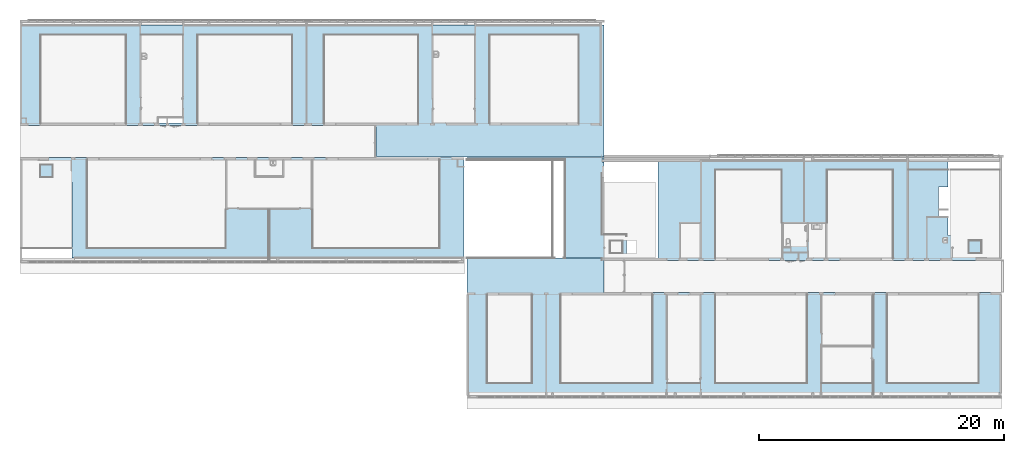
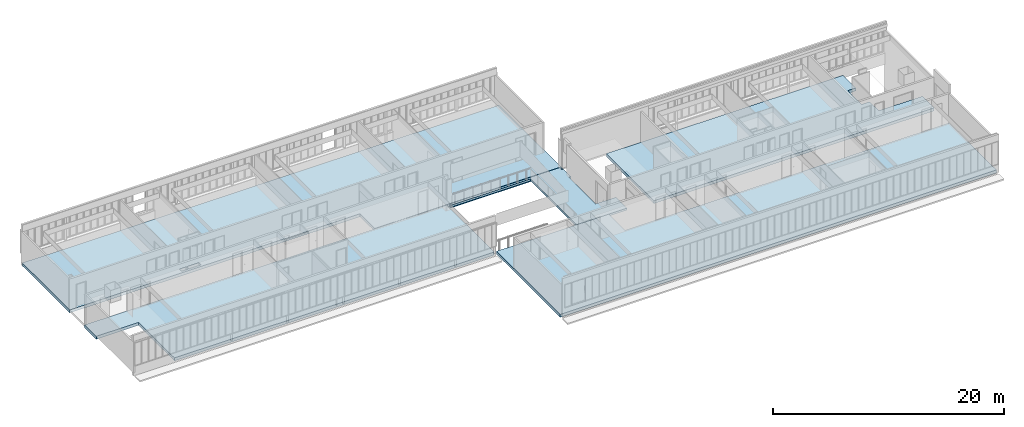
# One storey, part 22 of 87: 2 slabs.
"""IFC2X3 building model written with IfcOpenShell, lengths in centimetres."""

from ifc_helpers import new_model, entity, si_unit, converted_unit, derived_unit, direction, frame, origin, place, context, subcontext, project, spatial, polyline, outline, extrude, material, layer, layer_set, layer_usage, type_object, element, save


model = new_model("IFC2X3")

# Units and contexts
model_context = context("Model", 3, precision=0.001, world=origin(), true_north=direction((6.12303176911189e-17, 1.0)))
body_context = subcontext(model_context, "Body", "Model", "MODEL_VIEW")
ifc_project = project(units=[si_unit("LENGTHUNIT", "METRE", prefix="CENTI"), si_unit("AREAUNIT", "SQUARE_METRE"), si_unit("VOLUMEUNIT", "CUBIC_METRE"), converted_unit("PLANEANGLEUNIT", "DEGREE", entity("IfcRatioMeasure", 0.0174532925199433), si_unit("PLANEANGLEUNIT", "RADIAN"), dimensions=[0, 0, 0, 0, 0, 0, 0]), si_unit("MASSUNIT", "GRAM", prefix="KILO"), derived_unit("MASSDENSITYUNIT", [(si_unit("MASSUNIT", "GRAM", prefix="KILO"), 1), (si_unit("LENGTHUNIT", "METRE"), -3)]), si_unit("TIMEUNIT", "SECOND"), si_unit("FREQUENCYUNIT", "HERTZ"), si_unit("THERMODYNAMICTEMPERATUREUNIT", "DEGREE_CELSIUS"), derived_unit("THERMALTRANSMITTANCEUNIT", [(si_unit("MASSUNIT", "GRAM", prefix="KILO"), 1), (si_unit("THERMODYNAMICTEMPERATUREUNIT", "KELVIN"), -1), (si_unit("TIMEUNIT", "SECOND"), -3)]), derived_unit("VOLUMETRICFLOWRATEUNIT", [(si_unit("LENGTHUNIT", "METRE"), 3), (si_unit("TIMEUNIT", "SECOND"), -1)]), si_unit("ELECTRICCURRENTUNIT", "AMPERE"), si_unit("ELECTRICVOLTAGEUNIT", "VOLT"), si_unit("POWERUNIT", "WATT"), si_unit("FORCEUNIT", "NEWTON", prefix="KILO"), si_unit("ILLUMINANCEUNIT", "LUX"), si_unit("LUMINOUSFLUXUNIT", "LUMEN"), si_unit("LUMINOUSINTENSITYUNIT", "CANDELA"), derived_unit("USERDEFINED", [(si_unit("MASSUNIT", "GRAM", prefix="KILO"), -1), (si_unit("LENGTHUNIT", "METRE"), -2), (si_unit("TIMEUNIT", "SECOND"), 3), (si_unit("LUMINOUSFLUXUNIT", "LUMEN"), 1)]), derived_unit("LINEARVELOCITYUNIT", [(si_unit("LENGTHUNIT", "METRE"), 1), (si_unit("TIMEUNIT", "SECOND"), -1)]), si_unit("PRESSUREUNIT", "PASCAL"), derived_unit("USERDEFINED", [(si_unit("LENGTHUNIT", "METRE"), -2), (si_unit("MASSUNIT", "GRAM", prefix="KILO"), 1), (si_unit("TIMEUNIT", "SECOND"), -2)])], contexts=[model_context])

# Site, building, storey
site_placement = place(None, frame((-2781.94577612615, 7442.24238424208, 0.0)))
site = spatial("IfcSite", under=ifc_project, at=site_placement, Name="Default", CompositionType="ELEMENT")
building_placement = place(site_placement, origin())
building = spatial("IfcBuilding", under=site, at=building_placement, CompositionType="ELEMENT")
storey_placement = place(building_placement, frame((0.0, 0.0, 774.0)))
storey = spatial("IfcBuildingStorey", under=building, at=storey_placement, Name="TR - N02 - ARCH", CompositionType="ELEMENT", Elevation=774.0)

# Slabs
ifc_material_1 = material(Name="Béton, coulé sur place")
ifc_layer_1 = layer(ifc_material_1, 1.0)
ifc_material_2 = material(Name="01 - Maçonnerie")
ifc_layer_2 = layer(ifc_material_2, 30.0)
ifc_layer_set_1 = layer_set([ifc_layer_1, ifc_layer_2], Name="Sol:02 - dalle béton 30cm + finition 1cm")
ifc_layer_usage_1 = layer_usage(ifc_layer_set_1, "AXIS3", "POSITIVE", 0.0)
slab_type_1 = type_object("IfcSlabType", Name="Sol:02 - dalle béton 30cm + finition 1cm", PredefinedType="FLOOR", material=ifc_layer_set_1)
slab_1_placement = place(storey_placement, origin())
element("IfcSlab", 1, at=slab_1_placement, inside=storey, type_object=slab_type_1, material=ifc_layer_usage_1, Name="Sol:02 - dalle béton 30cm + finition 1cm", ObjectType="Sol:02 - dalle béton 30cm + finition 1cm", PredefinedType="FLOOR", context=body_context, shape_type="SweptSolid", body=[
    extrude(outline(polyline([(-2790.67142542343, 271.473675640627), (-2790.67142542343, -548.683256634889), (1552.02856933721, -548.683256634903), (1567.32856933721, -548.683256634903), (1567.32856933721, 551.551209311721), (447.328571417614, 551.551209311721), (447.328571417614, 271.473675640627), (-2790.67142542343, 271.473675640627)])), frame((-3200.67130826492, -2461.6302429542, -31.0), z_axis=(0.0, 0.0, -1.0), x_axis=(-1.0, 0.0, 0.0)), (0.0, 0.0, -1.0), 31.0),
    extrude(outline(polyline([(-2758.27777689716, 219.804722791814), (-2758.27777689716, 199.804722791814), (-2758.27777689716, -600.24377819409), (1983.22222108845, -600.24377819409), (2001.72222108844, -600.24377819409), (2001.72222108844, 209.804722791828), (2001.72222108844, 475.7562217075), (143.22222316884, 475.7562217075), (143.22222316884, 219.804722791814), (-2758.27777689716, 219.804722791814)]), holes=[polyline([(-1562.57777891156, 159.804722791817), (-1628.57777891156, 159.804722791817), (-1628.57777891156, 199.804722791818), (-1562.57777891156, 199.804722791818), (-1562.57777891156, 159.804722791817)]), polyline([(-1433.27777683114, 159.804722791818), (-1552.57777891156, 159.804722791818), (-1552.57777891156, 199.804722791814), (-1433.27777683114, 199.804722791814), (-1433.27777683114, 159.804722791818)])]), frame((-5651.22210077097, -610.243778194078, -31.0), z_axis=(0.0, 0.0, -1.0), x_axis=(1.0, 0.0, 0.0)), (0.0, 0.0, -1.0), 31.0),
    extrude(outline(polyline([(-384.944751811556, -1821.85454545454), (435.134281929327, -1821.85454545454), (435.134281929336, 977.445454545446), (232.014281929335, 977.445454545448), (232.014281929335, 542.145454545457), (75.134281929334, 542.145454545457), (75.134281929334, 462.145454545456), (-164.865718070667, 462.145454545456), (-164.865718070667, 542.145454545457), (-384.944751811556, 542.145454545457), (-384.944751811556, -1404.05454545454), (-384.944751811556, -1821.85454545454)])), frame((-1387.44533738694, -1494.94475171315, -31.0), z_axis=(0.0, 0.0, 1.0), x_axis=(0.0, -1.0, 0.0)), (0.0, 0.0, 1.0), 31.0),
    extrude(outline(polyline([(-497.830466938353, -2268.44444446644), (302.248566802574, -2268.44444446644), (322.248566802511, -2268.44444446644), (322.248566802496, 1349.05555559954), (302.248566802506, 1349.05555559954), (122.248566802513, 1349.05555559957), (122.248566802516, 926.05555553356), (-497.83046693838, 926.055555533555), (-497.83046693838, 906.055555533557), (-497.830466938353, -2268.44444446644)])), frame((-7060.44432206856, -1412.24856670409, -31.0), z_axis=(0.0, 0.0, 1.0), x_axis=(0.0, 1.0, 0.0)), (0.0, 0.0, 1.0), 31.0),
    extrude(outline(polyline([(-18.0, -555.874998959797), (13.0, -555.874998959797), (13.0, -550.874998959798), (-8.0, -550.874998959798), (-8.0, 544.124998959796), (13.0, 544.124998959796), (13.0, 562.624998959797), (-18.0, 562.624998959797), (-18.0, -555.874998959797)])), frame((-4212.12487864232, -1110.0, -13.0), z_axis=(0.0, 1.0, 0.0), x_axis=(0.0, 0.0, 1.0)), (0.0, 0.0, 1.0), 20.0000000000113),
])
ifc_layer_3 = layer(ifc_material_1, 1.0)
ifc_layer_4 = layer(ifc_material_2, 20.0)
ifc_layer_set_2 = layer_set([ifc_layer_3, ifc_layer_4], Name="Sol:02 - dalle béton 20cm + finition 1cm")
ifc_layer_usage_2 = layer_usage(ifc_layer_set_2, "AXIS3", "POSITIVE", 0.0)
slab_type_2 = type_object("IfcSlabType", Name="Sol:02 - dalle béton 20cm + finition 1cm", PredefinedType="FLOOR", material=ifc_layer_set_2)
slab_2_placement = place(storey_placement, frame((-8409.49987766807, -2190.15656731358, -21.0)))
element("IfcSlab", 2, at=slab_2_placement, inside=storey, type_object=slab_type_2, material=ifc_layer_usage_2, Name="Sol:02 - dalle béton 20cm + finition 1cm:3", ObjectType="Sol:02 - dalle béton 20cm + finition 1cm", PredefinedType="FLOOR", context=body_context, shape_type="SweptSolid", body=[
    extrude(outline(polyline([(-441.750000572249, -399.976499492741), (-441.750000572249, 398.102534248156), (353.249997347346, 398.102534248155), (353.249997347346, 420.102534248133), (-741.750000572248, 420.102534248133), (-741.750000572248, 383.195763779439), (-761.750000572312, 383.195763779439), (-761.750000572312, 256.730270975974), (-741.750000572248, 256.730270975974), (-741.750000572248, -209.976499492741), (-941.750000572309, -209.976499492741), (-941.750000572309, -215.976499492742), (-944.449997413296, -215.976499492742), (-944.449997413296, -399.976499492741), (-441.750000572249, -399.976499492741)])), frame((3999.74999741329, 680.054033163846, 21.0), z_axis=(0.0, 0.0, -1.0), x_axis=(-1.0, 0.0, 0.0)), (0.0, 0.0, 1.0), 21.0),
])

save(model, "model.ifc")
